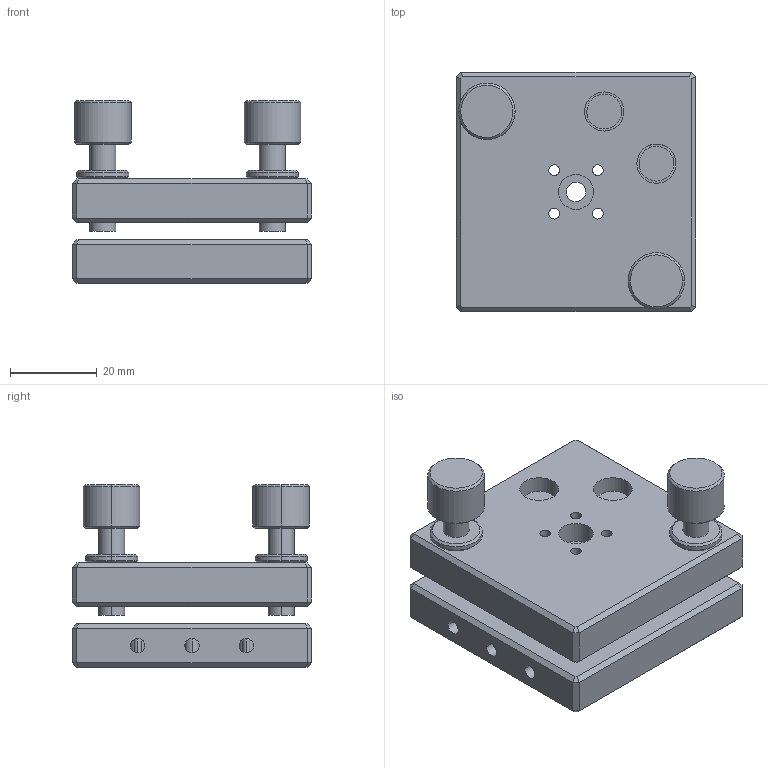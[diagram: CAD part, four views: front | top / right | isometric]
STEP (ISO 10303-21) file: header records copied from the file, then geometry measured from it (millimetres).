
FILE_DESCRIPTION (( 'STEP AP214' ), '1' );
FILE_NAME ('PQ230-5.STEP', '2022-09-17T06:56:52', ( '' ), ( '' ), 'SwSTEP 2.0', 'SolidWorks 2017', '' );
FILE_SCHEMA (( 'AUTOMOTIVE_DESIGN' ));
Length unit declared in the file: millimetre
Products named in the file (1): PQ230-5
Bounding box: 55 x 55 x 42 mm (x, y, z)
Surface area: 21009.6 mm2 (no closed solid volume)
Topology: 0 solids, 10 shells, 177 faces, 467 edges, 306 vertices
Faces by surface type: cylinder 94, plane 65, cone 18
Entity records: 7007 total; most frequent: CARTESIAN_POINT 2417, DIRECTION 989, ORIENTED_EDGE 856, EDGE_CURVE 467, AXIS2_PLACEMENT_3D 382, VERTEX_POINT 306, EDGE_LOOP 254, LINE 225
